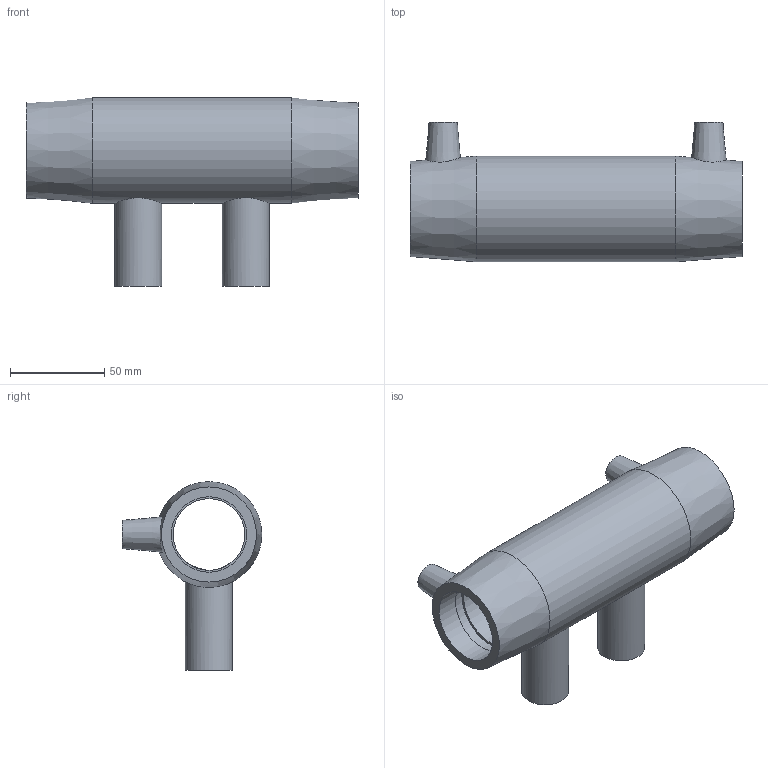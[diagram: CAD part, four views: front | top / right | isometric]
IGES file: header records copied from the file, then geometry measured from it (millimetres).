
Global section: file name: 492404040025.ipt; native system: Autodesk Inventor 2015; preprocessor: unknown; author: KIM; date: 20171106.093917; units: millimetre
Bounding box: 176 x 74 x 100 mm (x, y, z)
Volume: 221870.3 mm3; surface area: 69889 mm2
Topology: 1 solids, 1 shells, 34 faces, 80 edges, 58 vertices
Faces by surface type: plane 14, revolution 11, cylinder 5, cone 4
Full cylindrical faces by diameter (mm): 4 x2, 25 x2, 56 x1
